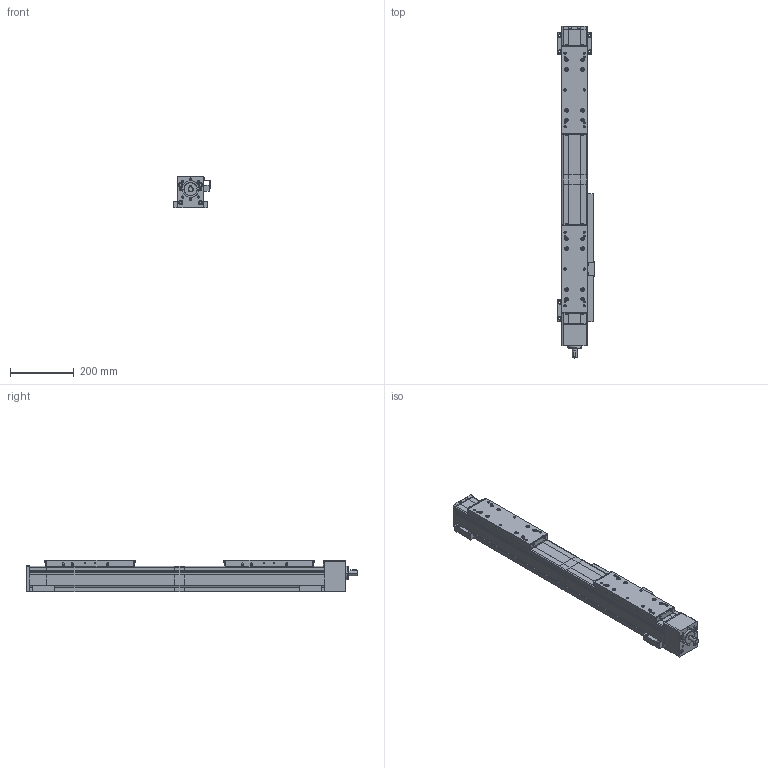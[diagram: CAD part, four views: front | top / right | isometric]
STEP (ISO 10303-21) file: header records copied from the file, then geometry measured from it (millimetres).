
FILE_DESCRIPTION(('Creo Elements/Direct Modeling STEP Export'),'2;1');
FILE_NAME('B080-SRS-RL-270-EN.stp','2020-02-25T 8:58:33',(''),(''),'Creo Elements/Direct Modeling STEP processor for AP214 (Solid Model)','Creo Elements/Direct Modeling 20.1C 13-Oct-2019 (C) Parametric Technology GmbH','');
FILE_SCHEMA(('AUTOMOTIVE_DESIGN { 1 0 10303 214 1 1 1 1 }'));
Length unit declared in the file: millimetre
Products named in the file (28): Beta080-SRS-SSS-Grundkoerper-Teil1; Beta080-SRS-SSS-Schlitten-270mm.02; Abstreiferbuerste-Blau_10504.02; Schraube_M_4x8_ISO_7380_va_10252.01; Abstreifer_kpl; Schlitten_kpl.02; Beta080-SRS-SSS-Grundkoerper-Teil2; BL2; BL2.1; Befestigungsleistenpaar; Befestigungsleistenpaar.1; Befestigungsleisten; NS3; NS3.1; Nutensteinpaar; Nutensteine; Endschalterprofil; Endschalter_induktiv; Endschalter_induktiv.1; Endschalter_induktiv.2; Induktive_Endschalter_mit_EN-Profil; Schaltfahne_10407; Linsenschraube_M4x8_EN_ISO_7380_1_10.9_vz_10243; Schaltfahne_10407_kpl; Induktive-Endschalter; B080-SRS-RL-270-EN
Assembly tree (31 placements, depth 4):
  B080-SRS-RL-270-EN
    Induktive-Endschalter
      Schaltfahne_10407_kpl
        Linsenschraube_M4x8_EN_ISO_7380_1_10.9_vz_10243  x2
        Schaltfahne_10407
      Induktive_Endschalter_mit_EN-Profil
        Endschalter_induktiv.2
        Endschalter_induktiv.1
        Endschalter_induktiv
        Endschalterprofil
    Schlitten_kpl.02  x2
      Abstreifer_kpl
        Schraube_M_4x8_ISO_7380_va_10252.01  x2
        Abstreiferbuerste-Blau_10504.02
      Beta080-SRS-SSS-Schlitten-270mm.02
    Nutensteine
      Nutensteinpaar
        NS3.1
        NS3
    Befestigungsleisten
      Befestigungsleistenpaar.1
        BL2.1
        BL2
      Befestigungsleistenpaar
        BL2.1
        BL2
    Beta080-SRS-SSS-Grundkoerper-Teil2
    Beta080-SRS-SSS-Grundkoerper-Teil1
Bounding box: 114.5 x 1038 x 100 mm (x, y, z)
Volume: 7317108.7 mm3; surface area: 648109.3 mm2
Topology: 29 solids, 29 shells, 1938 faces, 4431 edges, 2683 vertices
Faces by surface type: plane 1010, cylinder 608, cone 244, torus 56, sphere 20
Entity records: 41513 total; most frequent: CARTESIAN_POINT 10986, ORIENTED_EDGE 6386, DIRECTION 5451, EDGE_CURVE 3193, VERTEX_POINT 1977, VECTOR 1859, LINE 1859, AXIS2_PLACEMENT_3D 1796
